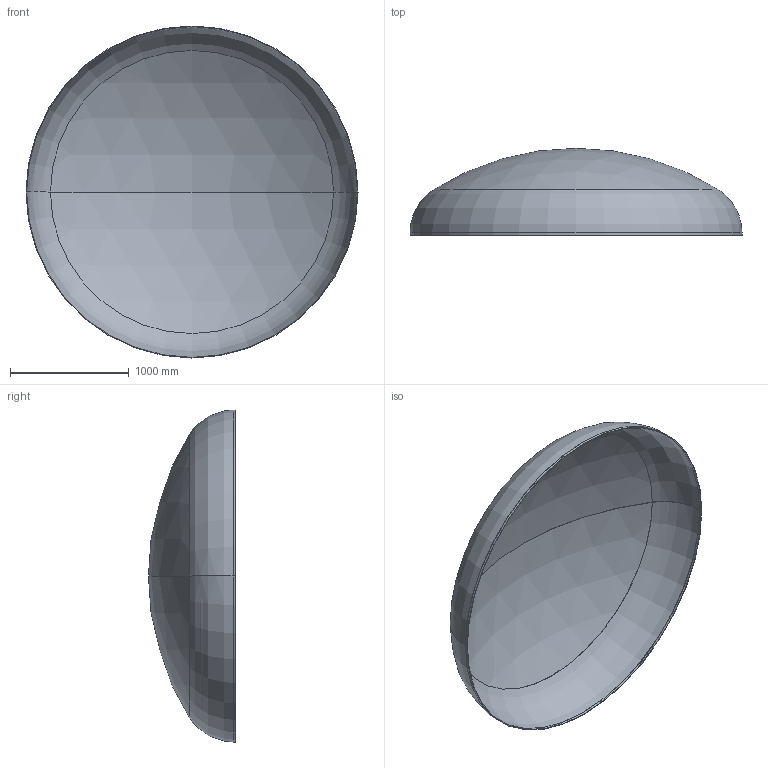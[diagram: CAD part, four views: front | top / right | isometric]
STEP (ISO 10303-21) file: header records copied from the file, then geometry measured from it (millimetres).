
FILE_DESCRIPTION (( 'STEP AP203' ), '1' );
FILE_NAME ('DIN 28013 Korbbogenform_-_Boden DIN 28013 - 2800 x 20 - I - s=5.step', '2016-07-01T16:38:27', ( '' ), ( '' ), 'SwSTEP 2.0', 'SolidWorks 2013', '' );
FILE_SCHEMA (( 'CONFIG_CONTROL_DESIGN' ));
Length unit declared in the file: millimetre
Products named in the file (1): DIN 28013 Korbbogenform_-_Boden DIN 28013 - 2800 x 20 - I - s=5
Bounding box: 2800 x 733.7 x 2800 mm (x, y, z)
Volume: 43399059.9 mm3; surface area: 17403572.9 mm2
Topology: 1 solids, 1 shells, 13 faces, 24 edges, 14 vertices
Faces by surface type: torus 4, cylinder 4, sphere 4, plane 1
Entity records: 407 total; most frequent: DIRECTION 72, CARTESIAN_POINT 52, ORIENTED_EDGE 48, AXIS2_PLACEMENT_3D 34, EDGE_CURVE 24, CIRCLE 20, VERTEX_POINT 14, EDGE_LOOP 14
